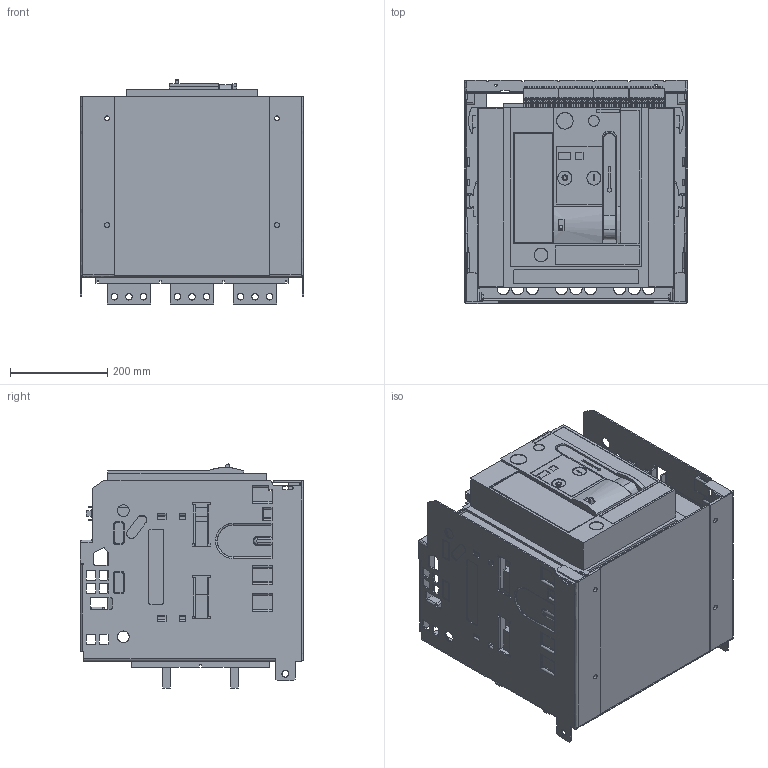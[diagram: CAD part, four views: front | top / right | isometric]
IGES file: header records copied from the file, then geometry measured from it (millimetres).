
Start section: SolidWorks IGES file using analytic representation for surfaces
Global section: file name: U:\14_RD\05_Technical_office\04_Office\Hrdinova\3D modely - IGES\Arion\ARION_WL1225-___36.IGS; native system: SolidWorks 2011; preprocessor: SolidWorks 2011; author: adhrja3; date: 170609.083711; units: millimetre
Bounding box: 460 x 460 x 461.66 mm (x, y, z)
Surface area: 2910977.6 mm2 (no closed solid volume)
Topology: 0 solids, 0 shells, 3177 faces, 28415 edges, 28383 vertices
Faces by surface type: bspline 2549, revolution 628
